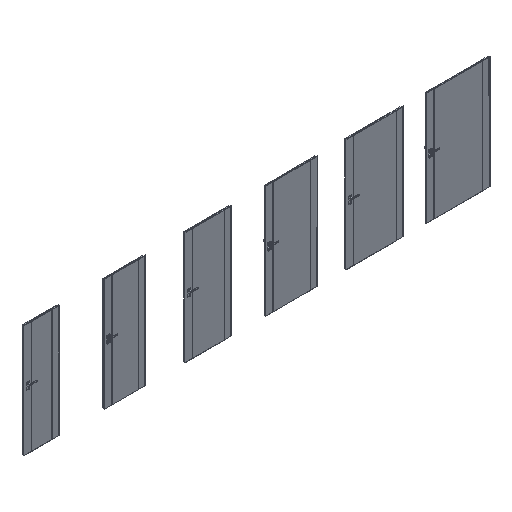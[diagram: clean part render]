
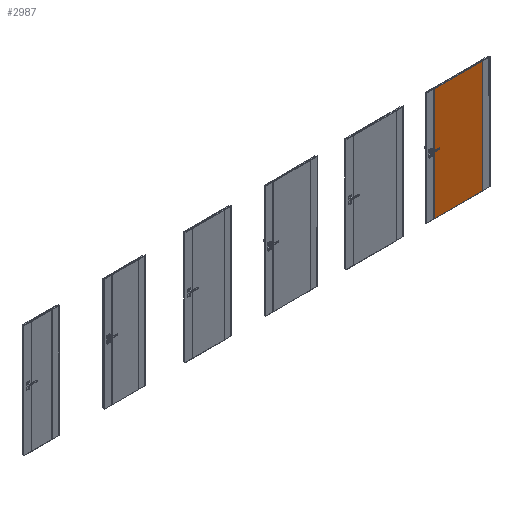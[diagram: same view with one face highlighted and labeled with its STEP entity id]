
A CAD part, isometric view. The second image highlights one B-rep face of the part: STEP entity #2987.
In plain terms, the highlighted planar face has unit normal (0, -1, 0).
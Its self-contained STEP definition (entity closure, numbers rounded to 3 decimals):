
#1781=FACE_OUTER_BOUND('',#5777,.T.);
#2987=ADVANCED_FACE('',(#1781),#4127,.F.);
#4127=PLANE('',#21252);
#5777=EDGE_LOOP('',(#8438,#8439,#8440,#8441));
#8438=ORIENTED_EDGE('',*,*,#15282,.T.);
#8439=ORIENTED_EDGE('',*,*,#15283,.T.);
#8440=ORIENTED_EDGE('',*,*,#15284,.F.);
#8441=ORIENTED_EDGE('',*,*,#15285,.F.);
#13220=VERTEX_POINT('',#30744);
#13221=VERTEX_POINT('',#30745);
#13222=VERTEX_POINT('',#30747);
#13223=VERTEX_POINT('',#30749);
#15282=EDGE_CURVE('',#13220,#13221,#17972,.T.);
#15283=EDGE_CURVE('',#13221,#13222,#17973,.T.);
#15284=EDGE_CURVE('',#13223,#13222,#17974,.T.);
#15285=EDGE_CURVE('',#13220,#13223,#17975,.T.);
#17972=LINE('',#30743,#19640);
#17973=LINE('',#30746,#19641);
#17974=LINE('',#30748,#19642);
#17975=LINE('',#30750,#19643);
#19640=VECTOR('',#24321,1.);
#19641=VECTOR('',#24322,1.);
#19642=VECTOR('',#24323,1.);
#19643=VECTOR('',#24324,1.);
#21252=AXIS2_PLACEMENT_3D('',#30751,#24325,#24326);
#24321=DIRECTION('',(1.,0.,0.));
#24322=DIRECTION('',(0.,0.,1.));
#24323=DIRECTION('',(1.,0.,0.));
#24324=DIRECTION('',(0.,0.,1.));
#24325=DIRECTION('',(0.,1.,0.));
#24326=DIRECTION('',(-1.,0.,0.));
#30743=CARTESIAN_POINT('',(7178.,-39.3,2.));
#30744=CARTESIAN_POINT('',(7067.15,-39.3,2.));
#30745=CARTESIAN_POINT('',(7932.85,-39.3,2.));
#30746=CARTESIAN_POINT('',(7932.85,-39.3,0.));
#30747=CARTESIAN_POINT('',(7932.85,-39.3,2030.));
#30748=CARTESIAN_POINT('',(7178.,-39.3,2030.));
#30749=CARTESIAN_POINT('',(7067.15,-39.3,2030.));
#30750=CARTESIAN_POINT('',(7067.15,-39.3,0.));
#30751=CARTESIAN_POINT('',(7178.,-39.3,2030.));
